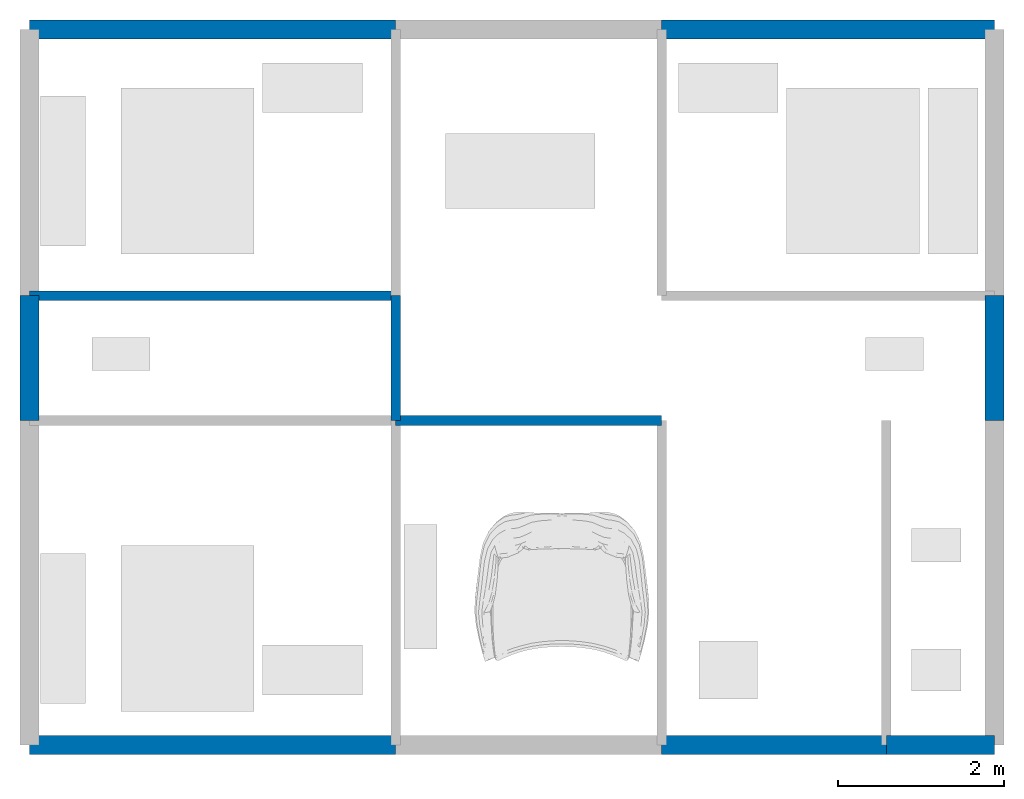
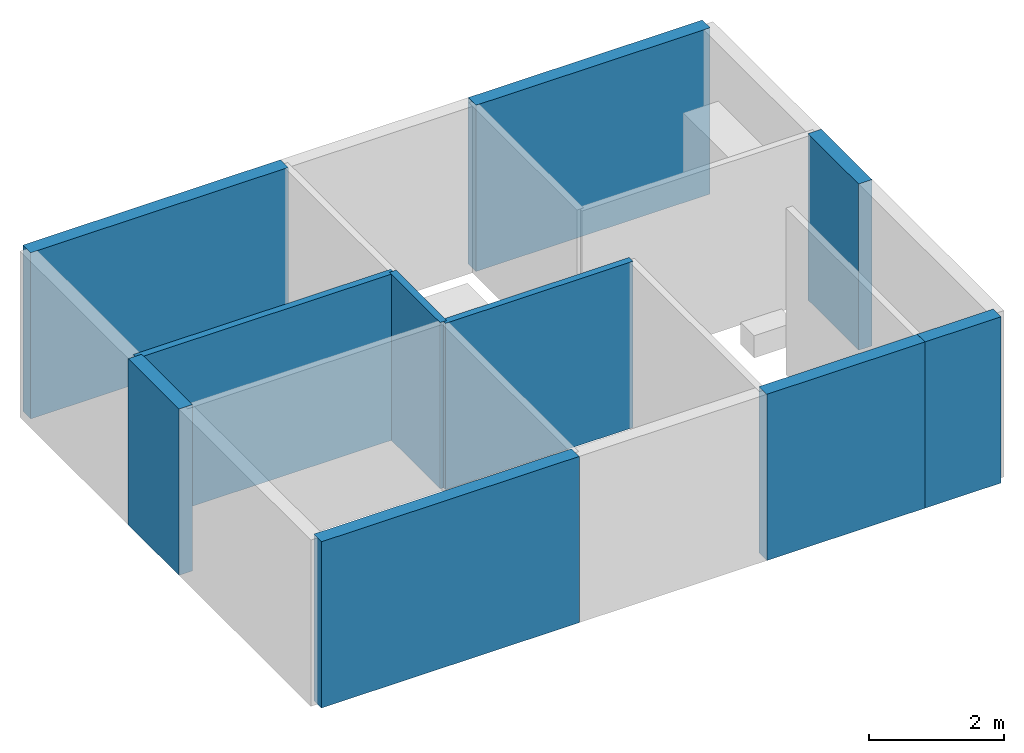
# One storey, part 1 of 3: 10 walls.
"""IFC4 building model written with IfcOpenShell, lengths in metres."""

from ifc_helpers import new_model, si_unit, frame, origin, place, context, project, spatial, polyline, outline, extrude, element, save


model = new_model("IFC4")

# Units and contexts
model_context = context("Model", 3, precision=1e-05, world=origin())
ifc_project = project(units=[si_unit("LENGTHUNIT", "METRE")], contexts=[model_context])

# Site, building, storey
site_placement = place(None, origin())
site = spatial("IfcSite", under=ifc_project, at=site_placement, Name="Site")
building_placement = place(site_placement, origin())
building = spatial("IfcBuilding", under=site, at=building_placement, Name="Structure")
storey_placement = place(building_placement, origin())
storey = spatial("IfcBuildingStorey", under=building, at=storey_placement, Name="Ground Floor")

# Walls
wall_1_placement = place(storey_placement, frame((0.1, 4.0, 0.0), x_axis=(6.12323399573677e-17, 1.0, 0.0)))
element("IfcWallStandardCase", 1, at=wall_1_placement, inside=storey, Name="ext_left_2", context=model_context, shape_type="SweptSolid", body=[
    extrude(outline(polyline([(0.0, -0.115), (1.5, -0.115), (1.5, 0.115), (0.0, 0.115), (0.0, -0.115)])), origin(), (0.0, 0.0, 1.0), 3.0),
])
wall_2_placement = place(storey_placement, frame((0.1, 8.7, 0.0), x_axis=(1.0, 0.0, 0.0)))
element("IfcWallStandardCase", 2, at=wall_2_placement, inside=storey, Name="ext_top_1", context=model_context, shape_type="SweptSolid", body=[
    extrude(outline(polyline([(0.0, -0.115), (4.4, -0.115), (4.4, 0.115), (0.0, 0.115), (0.0, -0.115)])), origin(), (0.0, 0.0, 1.0), 3.0),
])
wall_3_placement = place(storey_placement, frame((7.7, 8.7, 0.0), x_axis=(1.0, 0.0, 0.0)))
element("IfcWallStandardCase", 3, at=wall_3_placement, inside=storey, Name="ext_top_3", context=model_context, shape_type="SweptSolid", body=[
    extrude(outline(polyline([(0.0, -0.115), (4.0, -0.115), (4.0, 0.115), (0.0, 0.115), (0.0, -0.115)])), origin(), (0.0, 0.0, 1.0), 3.0),
])
wall_4_placement = place(storey_placement, frame((11.7, 5.5, 0.0), x_axis=(6.12323399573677e-17, -1.0, 0.0)))
element("IfcWallStandardCase", 4, at=wall_4_placement, inside=storey, Name="ext_right_2", context=model_context, shape_type="SweptSolid", body=[
    extrude(outline(polyline([(0.0, -0.115), (1.5, -0.115), (1.5, 0.115), (0.0, 0.115), (0.0, -0.115)])), origin(), (0.0, 0.0, 1.0), 3.0),
])
wall_5_placement = place(storey_placement, frame((0.1, 0.1, 0.0), x_axis=(1.0, 0.0, 0.0)))
element("IfcWallStandardCase", 5, at=wall_5_placement, inside=storey, Name="ext_bottom_1", context=model_context, shape_type="SweptSolid", body=[
    extrude(outline(polyline([(0.0, -0.115), (4.4, -0.115), (4.4, 0.115), (0.0, 0.115), (0.0, -0.115)])), origin(), (0.0, 0.0, 1.0), 3.0),
])
wall_6_placement = place(storey_placement, frame((7.7, 0.1, 0.0), x_axis=(1.0, 0.0, 0.0)))
element("IfcWallStandardCase", 6, at=wall_6_placement, inside=storey, Name="ext_bottom_3", context=model_context, shape_type="SweptSolid", body=[
    extrude(outline(polyline([(0.0, -0.115), (2.7, -0.115), (2.7, 0.115), (0.0, 0.115), (0.0, -0.115)])), origin(), (0.0, 0.0, 1.0), 3.0),
])
wall_7_placement = place(storey_placement, frame((10.4, 0.1, 0.0), x_axis=(1.0, 0.0, 0.0)))
element("IfcWallStandardCase", 7, at=wall_7_placement, inside=storey, Name="ext_bottom_4", context=model_context, shape_type="SweptSolid", body=[
    extrude(outline(polyline([(0.0, -0.115), (1.3, -0.115), (1.3, 0.115), (0.0, 0.115), (0.0, -0.115)])), origin(), (0.0, 0.0, 1.0), 3.0),
])
wall_8_placement = place(storey_placement, frame((0.1, 5.5, 0.0), x_axis=(1.0, 0.0, 0.0)))
element("IfcWallStandardCase", 8, at=wall_8_placement, inside=storey, Name="int_toilet_b1", context=model_context, shape_type="SweptSolid", body=[
    extrude(outline(polyline([(0.0, -0.0575), (4.4, -0.0575), (4.4, 0.0575), (0.0, 0.0575), (0.0, -0.0575)])), origin(), (0.0, 0.0, 1.0), 3.0),
])
wall_9_placement = place(storey_placement, frame((4.5, 4.0, 0.0), x_axis=(6.12323399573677e-17, 1.0, 0.0)))
element("IfcWallStandardCase", 9, at=wall_9_placement, inside=storey, Name="int_pooja_din", context=model_context, shape_type="SweptSolid", body=[
    extrude(outline(polyline([(0.0, -0.0575), (1.5, -0.0575), (1.5, 0.0575), (0.0, 0.0575), (0.0, -0.0575)])), origin(), (0.0, 0.0, 1.0), 3.0),
])
wall_10_placement = place(storey_placement, frame((4.5, 4.0, 0.0), x_axis=(1.0, 0.0, 0.0)))
element("IfcWallStandardCase", 10, at=wall_10_placement, inside=storey, Name="int_liv_din_beam", context=model_context, shape_type="SweptSolid", body=[
    extrude(outline(polyline([(0.0, -0.0575), (3.2, -0.0575), (3.2, 0.0575), (0.0, 0.0575), (0.0, -0.0575)])), origin(), (0.0, 0.0, 1.0), 3.0),
])

save(model, "model.ifc")
